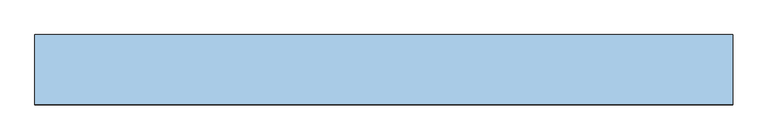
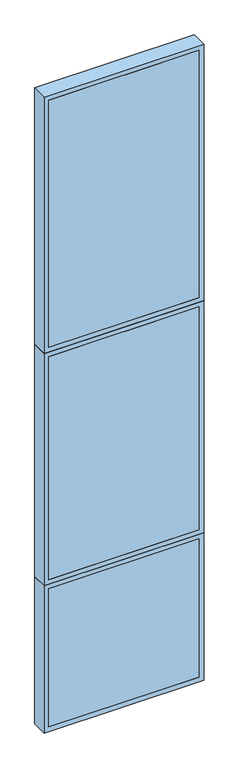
"""IFC4 building model written with IfcOpenShell, lengths in millimetres: window geometry, TRP_CP_ARC_FI_V1 : AL_P02_100_420."""

from ifc_helpers import new_model, si_unit, frame, origin, place, context, project, spatial, polyline, outline, extrude, source, transform, mapped, element, save


def window_1ec7cec5(model_context):
    return source(origin(), model_context, "Body", "SweptSolid", [
        extrude(outline(polyline([(470.0, -50.0), (-470.0, -50.0), (-470.0, -30.0), (470.0, -30.0), (470.0, -50.0)])), frame((0.0, 0.0, 30.0), z_axis=(0.0, 0.0, 1.0), x_axis=(1.0, 0.0, 0.0)), (0.0, 0.0, 1.0), 913.0),
        extrude(outline(polyline([(973.0, 500.0), (973.0, -500.0), (0.0, -500.0), (0.0, 500.0), (973.0, 500.0)]), holes=[polyline([(30.0, 470.0), (30.0, -470.0), (943.0, -470.0), (943.0, 470.0), (30.0, 470.0)])]), frame((0.0, -50.0, 0.0), z_axis=(0.0, 1.0, 0.0), x_axis=(0.0, 0.0, 1.0)), (0.0, 0.0, 1.0), 100.0),
        extrude(outline(polyline([(2506.0, 500.0), (2506.0, -500.0), (973.0, -500.0), (973.0, 500.0), (2506.0, 500.0)]), holes=[polyline([(1003.0, 470.0), (1003.0, -470.0), (2476.0, -470.0), (2476.0, 470.0), (1003.0, 470.0)])]), frame((0.0, -50.0, 0.0), z_axis=(0.0, 1.0, 0.0), x_axis=(0.0, 0.0, 1.0)), (0.0, 0.0, 1.0), 100.0),
        extrude(outline(polyline([(470.0, -50.0), (-470.0, -50.0), (-470.0, -30.0), (470.0, -30.0), (470.0, -50.0)])), frame((0.0, 0.0, 1003.0), z_axis=(0.0, 0.0, 1.0), x_axis=(1.0, 0.0, 0.0)), (0.0, 0.0, 1.0), 1473.0),
        extrude(outline(polyline([(4200.0, 500.0), (4200.0, -500.0), (2506.0, -500.0), (2506.0, 500.0), (4200.0, 500.0)]), holes=[polyline([(2536.0, 470.0), (2536.0, -470.0), (4170.0, -470.0), (4170.0, 470.0), (2536.0, 470.0)])]), frame((0.0, -50.0, 0.0), z_axis=(0.0, 1.0, 0.0), x_axis=(0.0, 0.0, 1.0)), (0.0, 0.0, 1.0), 100.0),
        extrude(outline(polyline([(470.0, -50.0), (-470.0, -50.0), (-470.0, -30.0), (470.0, -30.0), (470.0, -50.0)])), frame((0.0, 0.0, 2536.0), z_axis=(0.0, 0.0, 1.0), x_axis=(1.0, 0.0, 0.0)), (0.0, 0.0, 1.0), 1634.0),
    ])


if __name__ == "__main__":
    model = new_model("IFC4")
    model_context = context("Model", 3, world=origin())
    ifc_project = project(units=[si_unit("LENGTHUNIT", "METRE", prefix="MILLI")], contexts=[model_context])
    site = spatial("IfcSite", under=ifc_project)
    building = spatial("IfcBuilding", under=site)
    placement = place(None, origin())
    window_shape = window_1ec7cec5(model_context)
    element("IfcWindow", 1, ObjectType="TRP_CP_ARC_FI_V1 : AL_P02_100_420", at=placement, inside=building, context=model_context, shape_type="MappedRepresentation", body=[
        mapped(window_shape, transform((0.0, 0.0, 0.0), x_axis=(1.0, 0.0, 0.0), y_axis=(0.0, 1.0, 0.0), z_axis=(0.0, 0.0, 1.0))),
    ])
    save(model, "model.ifc")
